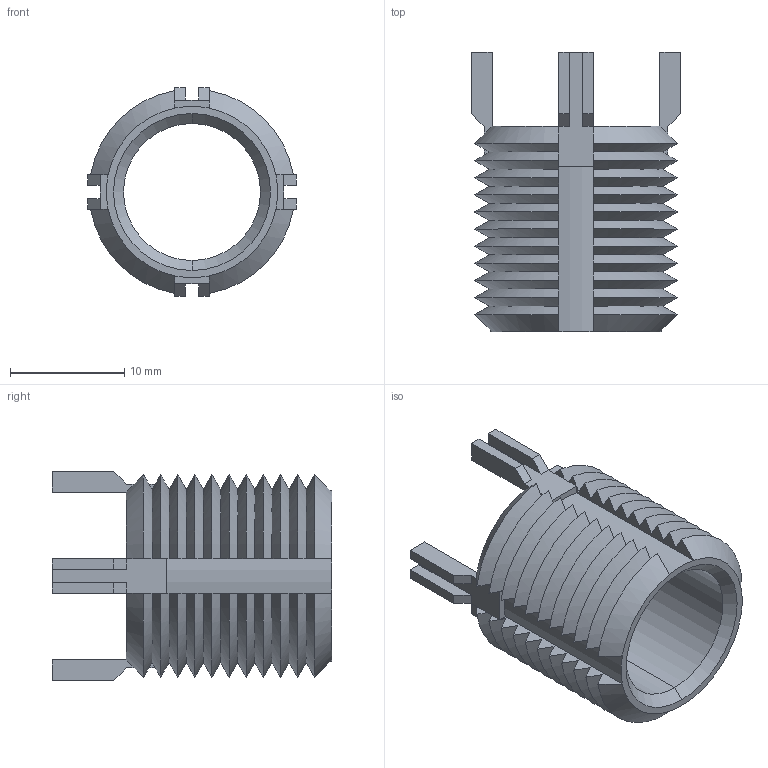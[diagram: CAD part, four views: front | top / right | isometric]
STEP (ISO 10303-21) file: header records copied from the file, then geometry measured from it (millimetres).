
FILE_DESCRIPTION (( 'STEP AP203' ), '1' );
FILE_NAME ('22002.W5690.step', '2020-01-04T21:35:07', ( '' ), ( '' ), 'SwSTEP 2.0', 'SolidWorks 2017', '' );
FILE_SCHEMA (( 'CONFIG_CONTROL_DESIGN' ));
Length unit declared in the file: millimetre
Products named in the file (1): 22002.W5690
Bounding box: 18.3 x 24.5 x 18.3 mm (x, y, z)
Volume: 1815.5 mm3; surface area: 2798.5 mm2
Topology: 1 solids, 1 shells, 188 faces, 498 edges, 312 vertices
Faces by surface type: cone 92, plane 90, cylinder 6
Entity records: 6027 total; most frequent: CARTESIAN_POINT 1647, ORIENTED_EDGE 996, DIRECTION 768, EDGE_CURVE 498, VERTEX_POINT 312, AXIS2_PLACEMENT_3D 297, B_SPLINE_CURVE_WITH_KNOTS 216, EDGE_LOOP 190
